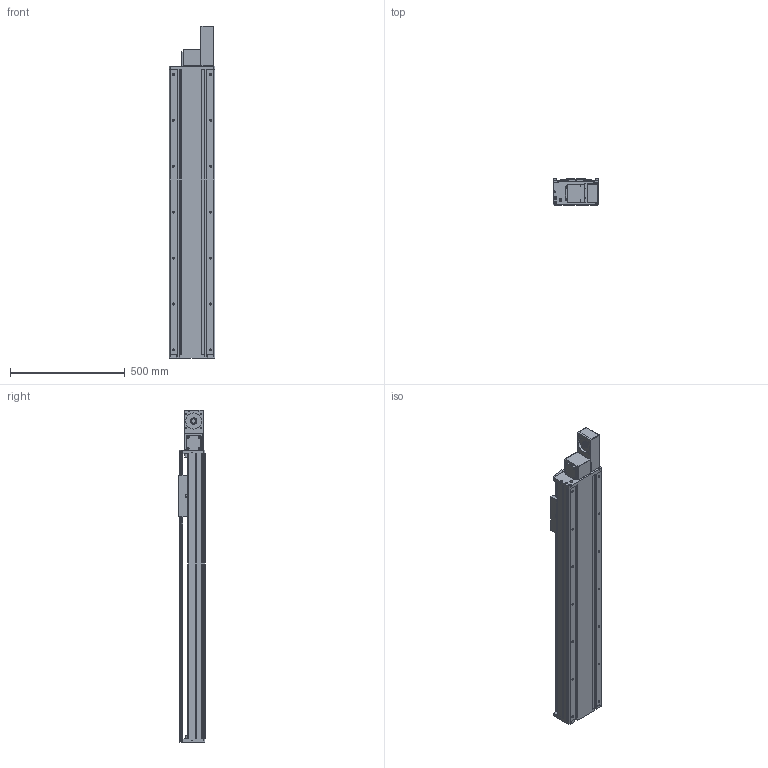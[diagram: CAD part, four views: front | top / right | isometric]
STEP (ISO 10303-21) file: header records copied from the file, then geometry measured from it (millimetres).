
FILE_DESCRIPTION(/* description */ (''),/* implementation_level */ '2;1');
FILE_NAME(/* name */ 'TKB200-FL-1000_asm1.stp',/* time_stamp */ '2016-05-18T11:02:22+08:00',/* author */ (''),/* organization */ (''),/* preprocessor_version */ 'ST-DEVELOPER v15',/* originating_system */ 'SIEMENS PLM Software NX 8.5',/* authorisation */ '');
FILE_SCHEMA (('AUTOMOTIVE_DESIGN { 1 0 10303 214 3 1 1 1 }'));
Length unit declared in the file: millimetre
Products named in the file (3): 200-2; 200-1; TKB200-FL-1000_asm1
Assembly tree (2 placements, depth 2):
  TKB200-FL-1000_asm1
    200-1
    200-2
Bounding box: 200 x 115 x 1445 mm (x, y, z)
Volume: 8521517.6 mm3; surface area: 2650811.4 mm2
Topology: 2 solids, 3 shells, 1021 faces, 2884 edges, 1855 vertices
Faces by surface type: cylinder 470, plane 465, cone 70, bspline 16
Full cylindrical faces by diameter (mm): 2.5 x2, 3.3 x16, 4.3 x4, 4.5 x8, 5 x2, 6.6 x34, 6.8 x8, 8 x6, 9 x22, 10 x4, 11 x22, 12 x16, 14 x14, 36 x1, 42 x2, 75 x1
Entity records: 34788 total; most frequent: CARTESIAN_POINT 9209, DIRECTION 5241, ORIENTED_EDGE 5114, EDGE_CURVE 2557, AXIS2_PLACEMENT_3D 1908, VERTEX_POINT 1762, EDGE_LOOP 1425, LINE 1425
